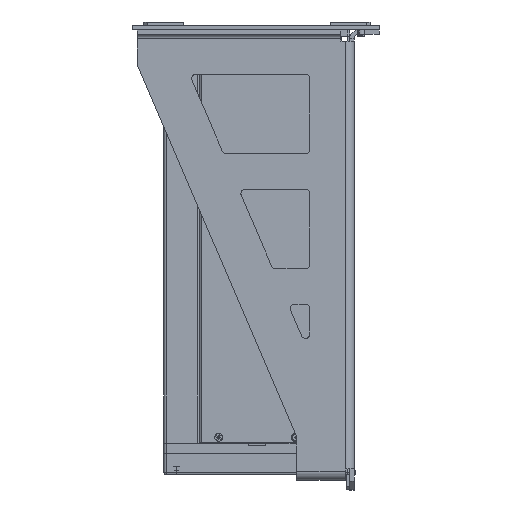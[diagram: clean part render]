
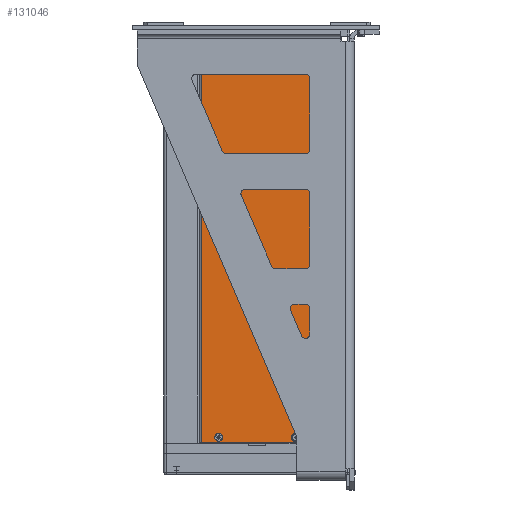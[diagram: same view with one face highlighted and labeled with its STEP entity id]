
A CAD part, left-side view. The second image highlights one B-rep face of the part: STEP entity #131046.
In plain terms, the highlighted planar face has unit normal (-1, 0, 0).
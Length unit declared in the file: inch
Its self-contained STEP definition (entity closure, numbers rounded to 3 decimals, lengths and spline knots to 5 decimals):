
#21846 = AXIS2_PLACEMENT_3D ( 'NONE', #31750, #31751, #31752 ) ;
#21855 = AXIS2_PLACEMENT_3D ( 'NONE', #31767, #31768, #31769 ) ;
#21857 = AXIS2_PLACEMENT_3D ( 'NONE', #31771, #31772, #31773 ) ;
#21860 = AXIS2_PLACEMENT_3D ( 'NONE', #31775, #31776, #31777 ) ;
#31750 = CARTESIAN_POINT ( 'NONE',  ( -8.595, -1.10755, -11.639 ) ) ;
#31751 = DIRECTION ( 'NONE',  ( -1., 0., 0. ) ) ;
#31752 = DIRECTION ( 'NONE',  ( 0., 0., -1. ) ) ;
#31754 = CARTESIAN_POINT ( 'NONE',  ( -8.595, 1.53263, -11.789 ) ) ;
#31755 = DIRECTION ( 'NONE',  ( 0., 0., 1. ) ) ;
#31763 = CARTESIAN_POINT ( 'NONE',  ( -8.595, -1.58237, -0.319 ) ) ;
#31767 = CARTESIAN_POINT ( 'NONE',  ( -8.595, -1.10755, -11.639 ) ) ;
#31768 = DIRECTION ( 'NONE',  ( -1., 0., 0. ) ) ;
#31769 = DIRECTION ( 'NONE',  ( 0., 0., -1. ) ) ;
#31770 = DIRECTION ( 'NONE',  ( 0., 1., 0. ) ) ;
#31771 = CARTESIAN_POINT ( 'NONE',  ( -8.595, 1.05781, -11.639 ) ) ;
#31772 = DIRECTION ( 'NONE',  ( -1., 0., 0. ) ) ;
#31773 = DIRECTION ( 'NONE',  ( 0., 0., -1. ) ) ;
#31774 = CARTESIAN_POINT ( 'NONE',  ( -8.595, -1.58237, -11.789 ) ) ;
#31775 = CARTESIAN_POINT ( 'NONE',  ( -8.595, 1.05781, -11.639 ) ) ;
#31776 = DIRECTION ( 'NONE',  ( -1., 0., 0. ) ) ;
#31777 = DIRECTION ( 'NONE',  ( 0., 0., -1. ) ) ;
#31778 = DIRECTION ( 'NONE',  ( 0., 1., 0. ) ) ;
#31779 = CARTESIAN_POINT ( 'NONE',  ( -8.595, -1.58237, -11.789 ) ) ;
#31780 = DIRECTION ( 'NONE',  ( 0., 0., 1. ) ) ;
#33792 = CIRCLE ( 'NONE', #21846, 0.1125 ) ;
#33805 = CIRCLE ( 'NONE', #21860, 0.1125 ) ;
#33814 = LINE ( 'NONE', #31754, #33819 ) ;
#33819 = VECTOR ( 'NONE', #31755, 39.37008 ) ;
#33822 = CIRCLE ( 'NONE', #21855, 0.1125 ) ;
#33825 = CIRCLE ( 'NONE', #21857, 0.1125 ) ;
#33828 = LINE ( 'NONE', #31774, #33844 ) ;
#33831 = LINE ( 'NONE', #31763, #33838 ) ;
#33838 = VECTOR ( 'NONE', #31770, 39.37008 ) ;
#33841 = LINE ( 'NONE', #31779, #33850 ) ;
#33844 = VECTOR ( 'NONE', #31778, 39.37008 ) ;
#33850 = VECTOR ( 'NONE', #31780, 39.37008 ) ;
#38343 = VERTEX_POINT ( 'NONE', #101489 ) ;
#38442 = VERTEX_POINT ( 'NONE', #101702 ) ;
#38461 = VERTEX_POINT ( 'NONE', #101728 ) ;
#50239 = VERTEX_POINT ( 'NONE', #53668 ) ;
#53668 = CARTESIAN_POINT ( 'NONE',  ( -8.595, -1.10755, -11.7515 ) ) ;
#54172 = CARTESIAN_POINT ( 'NONE',  ( -8.595, -1.10755, -11.5265 ) ) ;
#54810 = CARTESIAN_POINT ( 'NONE',  ( -8.595, 1.05781, -11.5265 ) ) ;
#54858 = CARTESIAN_POINT ( 'NONE',  ( -8.595, 1.53263, -11.789 ) ) ;
#54862 = CARTESIAN_POINT ( 'NONE',  ( -8.595, 1.05781, -11.7515 ) ) ;
#101489 = CARTESIAN_POINT ( 'NONE',  ( -8.595, -1.58237, -0.319 ) ) ;
#101702 = CARTESIAN_POINT ( 'NONE',  ( -8.595, -1.58237, -11.789 ) ) ;
#101728 = CARTESIAN_POINT ( 'NONE',  ( -8.595, 1.53263, -0.319 ) ) ;
#115044 = ORIENTED_EDGE ( 'NONE', *, *, #119318, .F. ) ;
#115047 = ORIENTED_EDGE ( 'NONE', *, *, #119303, .F. ) ;
#115051 = ORIENTED_EDGE ( 'NONE', *, *, #119320, .F. ) ;
#115055 = ORIENTED_EDGE ( 'NONE', *, *, #119323, .F. ) ;
#115060 = ORIENTED_EDGE ( 'NONE', *, *, #119325, .T. ) ;
#115063 = ORIENTED_EDGE ( 'NONE', *, *, #119313, .F. ) ;
#115066 = ORIENTED_EDGE ( 'NONE', *, *, #119327, .F. ) ;
#115069 = ORIENTED_EDGE ( 'NONE', *, *, #119330, .T. ) ;
#119303 = EDGE_CURVE ( 'NONE', #152231, #50239, #33792, .T. ) ;
#119313 = EDGE_CURVE ( 'NONE', #152628, #38461, #33814, .T. ) ;
#119318 = EDGE_CURVE ( 'NONE', #50239, #152231, #33822, .T. ) ;
#119320 = EDGE_CURVE ( 'NONE', #152630, #152604, #33825, .T. ) ;
#119323 = EDGE_CURVE ( 'NONE', #152604, #152630, #33805, .T. ) ;
#119325 = EDGE_CURVE ( 'NONE', #38343, #38461, #33831, .T. ) ;
#119327 = EDGE_CURVE ( 'NONE', #38442, #152628, #33828, .T. ) ;
#119330 = EDGE_CURVE ( 'NONE', #38442, #38343, #33841, .T. ) ;
#124175 = PLANE ( 'NONE',  #138603 ) ;
#124211 = CARTESIAN_POINT ( 'NONE',  ( -8.595, -1.58237, -11.789 ) ) ;
#124213 = DIRECTION ( 'NONE',  ( 1., 0., 0. ) ) ;
#124217 = DIRECTION ( 'NONE',  ( 0., 0., 1. ) ) ;
#127222 = FACE_BOUND ( 'NONE', #156009, .T. ) ;
#127228 = FACE_BOUND ( 'NONE', #156014, .T. ) ;
#127234 = FACE_OUTER_BOUND ( 'NONE', #156015, .T. ) ;
#131046 = ADVANCED_FACE ( 'NONE', ( #127222, #127228, #127234 ), #124175, .F. ) ;
#138603 = AXIS2_PLACEMENT_3D ( 'NONE', #124211, #124213, #124217 ) ;
#152231 = VERTEX_POINT ( 'NONE', #54172 ) ;
#152604 = VERTEX_POINT ( 'NONE', #54810 ) ;
#152628 = VERTEX_POINT ( 'NONE', #54858 ) ;
#152630 = VERTEX_POINT ( 'NONE', #54862 ) ;
#156009 = EDGE_LOOP ( 'NONE', ( #115044, #115047 ) ) ;
#156014 = EDGE_LOOP ( 'NONE', ( #115051, #115055 ) ) ;
#156015 = EDGE_LOOP ( 'NONE', ( #115060, #115063, #115066, #115069 ) ) ;
